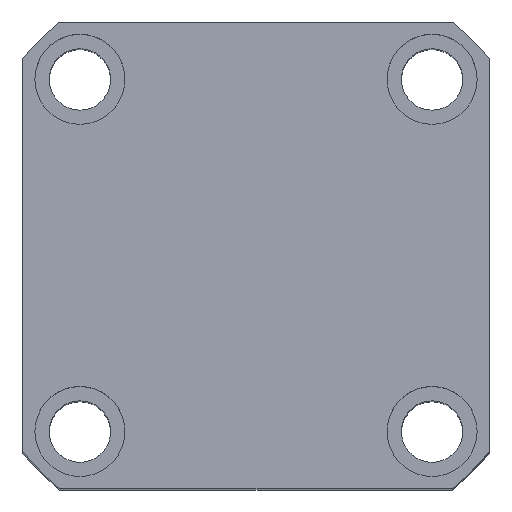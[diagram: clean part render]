
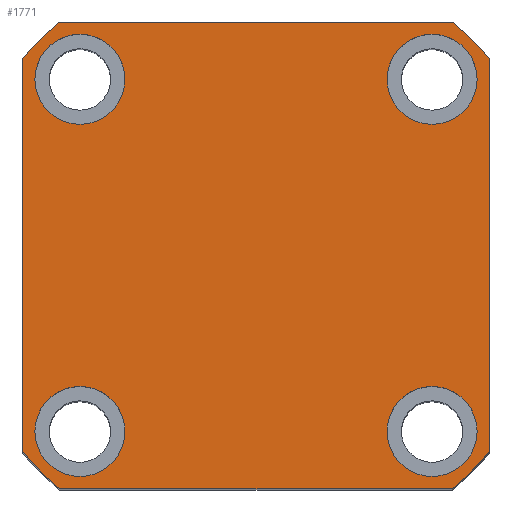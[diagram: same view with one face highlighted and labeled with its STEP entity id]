
A CAD part, top view. The second image highlights one B-rep face of the part: STEP entity #1771.
In plain terms, the highlighted planar face has unit normal (0, 0, 1) as drawn and (0, 0, -1) by its records, which use the part's own axes.
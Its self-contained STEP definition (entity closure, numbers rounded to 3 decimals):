
#72 = FACE_OUTER_BOUND ( 'NONE', #9642, .T. ) ;
#75 = CARTESIAN_POINT ( 'NONE',  ( 43., 43., 0. ) ) ;
#129 = CARTESIAN_POINT ( 'NONE',  ( 57., 47.971, 0. ) ) ;
#319 = AXIS2_PLACEMENT_3D ( 'NONE', #12295, #5258, #13489 ) ;
#427 = LINE ( 'NONE', #12897, #6683 ) ;
#481 = VERTEX_POINT ( 'NONE', #3427 ) ;
#496 = VERTEX_POINT ( 'NONE', #15057 ) ;
#617 = VECTOR ( 'NONE', #14478, 1000. ) ;
#765 = VERTEX_POINT ( 'NONE', #6345 ) ;
#766 = EDGE_CURVE ( 'NONE', #11324, #9706, #14275, .T. ) ;
#828 = ORIENTED_EDGE ( 'NONE', *, *, #3752, .F. ) ;
#890 = VERTEX_POINT ( 'NONE', #2708 ) ;
#964 = CIRCLE ( 'NONE', #7222, 11. ) ;
#1040 = CARTESIAN_POINT ( 'NONE',  ( 54., -43., 0. ) ) ;
#1085 = EDGE_CURVE ( 'NONE', #9706, #11324, #6901, .T. ) ;
#1276 = DIRECTION ( 'NONE',  ( -1., 0., 0. ) ) ;
#1444 = ORIENTED_EDGE ( 'NONE', *, *, #14208, .F. ) ;
#1546 = CARTESIAN_POINT ( 'NONE',  ( 47.971, -57., 0. ) ) ;
#1571 = ORIENTED_EDGE ( 'NONE', *, *, #14124, .F. ) ;
#1771 = ADVANCED_FACE ( 'NONE', ( #3227, #10942, #12594, #6344, #72 ), #12002, .F. ) ;
#2548 = CARTESIAN_POINT ( 'NONE',  ( 0., 0., 0. ) ) ;
#2671 = CARTESIAN_POINT ( 'NONE',  ( -54., -43., 0. ) ) ;
#2708 = CARTESIAN_POINT ( 'NONE',  ( -47.971, -57., 0. ) ) ;
#2721 = CARTESIAN_POINT ( 'NONE',  ( -32., -43., 0. ) ) ;
#2753 = EDGE_CURVE ( 'NONE', #8228, #12827, #4662, .T. ) ;
#2794 = VECTOR ( 'NONE', #11642, 1000. ) ;
#3002 = AXIS2_PLACEMENT_3D ( 'NONE', #4343, #14276, #15117 ) ;
#3047 = EDGE_LOOP ( 'NONE', ( #4388, #9159 ) ) ;
#3107 = AXIS2_PLACEMENT_3D ( 'NONE', #6019, #14263, #7193 ) ;
#3177 = DIRECTION ( 'NONE',  ( 0., 0., -1. ) ) ;
#3227 = FACE_BOUND ( 'NONE', #13929, .T. ) ;
#3295 = VERTEX_POINT ( 'NONE', #10910 ) ;
#3343 = DIRECTION ( 'NONE',  ( 0., 0., -1. ) ) ;
#3427 = CARTESIAN_POINT ( 'NONE',  ( 54., 43., 0. ) ) ;
#3699 = CARTESIAN_POINT ( 'NONE',  ( -57., 47.971, 0. ) ) ;
#3726 = DIRECTION ( 'NONE',  ( 1., 0., 0. ) ) ;
#3745 = LINE ( 'NONE', #3822, #617 ) ;
#3752 = EDGE_CURVE ( 'NONE', #890, #6746, #6649, .T. ) ;
#3822 = CARTESIAN_POINT ( 'NONE',  ( -57., 57., 0. ) ) ;
#3913 = CIRCLE ( 'NONE', #10967, 11. ) ;
#3972 = ORIENTED_EDGE ( 'NONE', *, *, #10853, .F. ) ;
#4086 = CARTESIAN_POINT ( 'NONE',  ( -57., -57., 0. ) ) ;
#4161 = EDGE_LOOP ( 'NONE', ( #14688, #6773 ) ) ;
#4193 = CARTESIAN_POINT ( 'NONE',  ( 57., 57., 0. ) ) ;
#4343 = CARTESIAN_POINT ( 'NONE',  ( 43., -43., 0. ) ) ;
#4388 = ORIENTED_EDGE ( 'NONE', *, *, #5975, .F. ) ;
#4662 = CIRCLE ( 'NONE', #14487, 74.5 ) ;
#4964 = CARTESIAN_POINT ( 'NONE',  ( 43., 43., 0. ) ) ;
#4974 = CIRCLE ( 'NONE', #319, 11. ) ;
#5101 = VERTEX_POINT ( 'NONE', #9081 ) ;
#5258 = DIRECTION ( 'NONE',  ( 0., 0., -1. ) ) ;
#5651 = CARTESIAN_POINT ( 'NONE',  ( 0., 0., 0. ) ) ;
#5744 = EDGE_CURVE ( 'NONE', #6746, #9649, #6620, .T. ) ;
#5813 = EDGE_CURVE ( 'NONE', #481, #496, #9354, .T. ) ;
#5867 = DIRECTION ( 'NONE',  ( -1., 0., 0. ) ) ;
#5975 = EDGE_CURVE ( 'NONE', #496, #481, #8253, .T. ) ;
#6019 = CARTESIAN_POINT ( 'NONE',  ( 0., 0., 0. ) ) ;
#6062 = VERTEX_POINT ( 'NONE', #2671 ) ;
#6157 = DIRECTION ( 'NONE',  ( -1., 0., 0. ) ) ;
#6160 = VERTEX_POINT ( 'NONE', #2721 ) ;
#6340 = ORIENTED_EDGE ( 'NONE', *, *, #5744, .F. ) ;
#6344 = FACE_BOUND ( 'NONE', #13960, .T. ) ;
#6345 = CARTESIAN_POINT ( 'NONE',  ( -54., 43., 0. ) ) ;
#6620 = CIRCLE ( 'NONE', #11180, 74.5 ) ;
#6648 = CARTESIAN_POINT ( 'NONE',  ( 57., -47.971, 0. ) ) ;
#6649 = LINE ( 'NONE', #4086, #2794 ) ;
#6683 = VECTOR ( 'NONE', #5867, 1000. ) ;
#6725 = AXIS2_PLACEMENT_3D ( 'NONE', #6827, #15078, #8000 ) ;
#6746 = VERTEX_POINT ( 'NONE', #1546 ) ;
#6773 = ORIENTED_EDGE ( 'NONE', *, *, #1085, .F. ) ;
#6827 = CARTESIAN_POINT ( 'NONE',  ( -43., 43., 0. ) ) ;
#6838 = DIRECTION ( 'NONE',  ( 1., 0., 0. ) ) ;
#6901 = CIRCLE ( 'NONE', #9286, 11. ) ;
#7027 = CARTESIAN_POINT ( 'NONE',  ( -32., 43., 0. ) ) ;
#7123 = AXIS2_PLACEMENT_3D ( 'NONE', #8299, #13084, #13132 ) ;
#7193 = DIRECTION ( 'NONE',  ( 1., 0., 0. ) ) ;
#7222 = AXIS2_PLACEMENT_3D ( 'NONE', #10382, #3343, #11564 ) ;
#7398 = VECTOR ( 'NONE', #11222, 1000. ) ;
#7676 = VERTEX_POINT ( 'NONE', #3699 ) ;
#7828 = ORIENTED_EDGE ( 'NONE', *, *, #9797, .F. ) ;
#8000 = DIRECTION ( 'NONE',  ( -1., 0., 0. ) ) ;
#8176 = CARTESIAN_POINT ( 'NONE',  ( 0., 0., 0. ) ) ;
#8228 = VERTEX_POINT ( 'NONE', #129 ) ;
#8253 = CIRCLE ( 'NONE', #14361, 11. ) ;
#8277 = DIRECTION ( 'NONE',  ( 0., 0., 1. ) ) ;
#8299 = CARTESIAN_POINT ( 'NONE',  ( 0., 0., 0. ) ) ;
#8300 = DIRECTION ( 'NONE',  ( 0., 0., -1. ) ) ;
#8301 = DIRECTION ( 'NONE',  ( 1., 0., 0. ) ) ;
#8465 = CIRCLE ( 'NONE', #14829, 74.5 ) ;
#8844 = CIRCLE ( 'NONE', #6725, 11. ) ;
#8932 = CARTESIAN_POINT ( 'NONE',  ( 32., -43., 0. ) ) ;
#8986 = ORIENTED_EDGE ( 'NONE', *, *, #11144, .F. ) ;
#9081 = CARTESIAN_POINT ( 'NONE',  ( -47.971, 57., 0. ) ) ;
#9159 = ORIENTED_EDGE ( 'NONE', *, *, #5813, .F. ) ;
#9245 = EDGE_CURVE ( 'NONE', #7676, #3295, #3745, .T. ) ;
#9286 = AXIS2_PLACEMENT_3D ( 'NONE', #13656, #13814, #13761 ) ;
#9354 = CIRCLE ( 'NONE', #12751, 11. ) ;
#9642 = EDGE_LOOP ( 'NONE', ( #14531, #8986, #6340, #828, #1571, #11306, #3972, #7828 ) ) ;
#9649 = VERTEX_POINT ( 'NONE', #6648 ) ;
#9706 = VERTEX_POINT ( 'NONE', #1040 ) ;
#9797 = EDGE_CURVE ( 'NONE', #12827, #5101, #427, .T. ) ;
#9895 = ORIENTED_EDGE ( 'NONE', *, *, #11197, .F. ) ;
#10203 = CARTESIAN_POINT ( 'NONE',  ( -43., 43., 0. ) ) ;
#10382 = CARTESIAN_POINT ( 'NONE',  ( -43., -43., 0. ) ) ;
#10521 = LINE ( 'NONE', #4193, #7398 ) ;
#10628 = ORIENTED_EDGE ( 'NONE', *, *, #12698, .F. ) ;
#10756 = DIRECTION ( 'NONE',  ( 0., 0., 1. ) ) ;
#10853 = EDGE_CURVE ( 'NONE', #5101, #7676, #14413, .T. ) ;
#10910 = CARTESIAN_POINT ( 'NONE',  ( -57., -47.971, 0. ) ) ;
#10942 = FACE_BOUND ( 'NONE', #4161, .T. ) ;
#10967 = AXIS2_PLACEMENT_3D ( 'NONE', #10203, #3177, #11385 ) ;
#11144 = EDGE_CURVE ( 'NONE', #9649, #8228, #10521, .T. ) ;
#11180 = AXIS2_PLACEMENT_3D ( 'NONE', #5651, #13897, #6838 ) ;
#11197 = EDGE_CURVE ( 'NONE', #765, #12431, #3913, .T. ) ;
#11222 = DIRECTION ( 'NONE',  ( 0., 1., 0. ) ) ;
#11306 = ORIENTED_EDGE ( 'NONE', *, *, #9245, .F. ) ;
#11324 = VERTEX_POINT ( 'NONE', #8932 ) ;
#11385 = DIRECTION ( 'NONE',  ( -1., 0., 0. ) ) ;
#11470 = CARTESIAN_POINT ( 'NONE',  ( 47.971, 57., 0. ) ) ;
#11564 = DIRECTION ( 'NONE',  ( -1., 0., 0. ) ) ;
#11642 = DIRECTION ( 'NONE',  ( 1., 0., 0. ) ) ;
#12002 = PLANE ( 'NONE',  #7123 ) ;
#12233 = EDGE_CURVE ( 'NONE', #6160, #6062, #964, .T. ) ;
#12295 = CARTESIAN_POINT ( 'NONE',  ( -43., -43., 0. ) ) ;
#12431 = VERTEX_POINT ( 'NONE', #7027 ) ;
#12594 = FACE_BOUND ( 'NONE', #3047, .T. ) ;
#12698 = EDGE_CURVE ( 'NONE', #12431, #765, #8844, .T. ) ;
#12751 = AXIS2_PLACEMENT_3D ( 'NONE', #75, #8300, #1276 ) ;
#12827 = VERTEX_POINT ( 'NONE', #11470 ) ;
#12897 = CARTESIAN_POINT ( 'NONE',  ( -57., 57., 0. ) ) ;
#13084 = DIRECTION ( 'NONE',  ( 0., 0., 1. ) ) ;
#13132 = DIRECTION ( 'NONE',  ( 1., 0., 0. ) ) ;
#13192 = DIRECTION ( 'NONE',  ( 0., 0., -1. ) ) ;
#13489 = DIRECTION ( 'NONE',  ( -1., 0., 0. ) ) ;
#13656 = CARTESIAN_POINT ( 'NONE',  ( 43., -43., 0. ) ) ;
#13761 = DIRECTION ( 'NONE',  ( -1., 0., 0. ) ) ;
#13814 = DIRECTION ( 'NONE',  ( 0., 0., -1. ) ) ;
#13897 = DIRECTION ( 'NONE',  ( 0., 0., 1. ) ) ;
#13929 = EDGE_LOOP ( 'NONE', ( #1444, #14315 ) ) ;
#13960 = EDGE_LOOP ( 'NONE', ( #9895, #10628 ) ) ;
#14124 = EDGE_CURVE ( 'NONE', #3295, #890, #8465, .T. ) ;
#14208 = EDGE_CURVE ( 'NONE', #6062, #6160, #4974, .T. ) ;
#14263 = DIRECTION ( 'NONE',  ( 0., 0., 1. ) ) ;
#14275 = CIRCLE ( 'NONE', #3002, 11. ) ;
#14276 = DIRECTION ( 'NONE',  ( 0., 0., -1. ) ) ;
#14315 = ORIENTED_EDGE ( 'NONE', *, *, #12233, .F. ) ;
#14361 = AXIS2_PLACEMENT_3D ( 'NONE', #4964, #13192, #6157 ) ;
#14413 = CIRCLE ( 'NONE', #3107, 74.5 ) ;
#14478 = DIRECTION ( 'NONE',  ( 0., -1., 0. ) ) ;
#14487 = AXIS2_PLACEMENT_3D ( 'NONE', #8176, #8277, #8301 ) ;
#14531 = ORIENTED_EDGE ( 'NONE', *, *, #2753, .F. ) ;
#14688 = ORIENTED_EDGE ( 'NONE', *, *, #766, .F. ) ;
#14829 = AXIS2_PLACEMENT_3D ( 'NONE', #2548, #10756, #3726 ) ;
#15057 = CARTESIAN_POINT ( 'NONE',  ( 32., 43., 0. ) ) ;
#15078 = DIRECTION ( 'NONE',  ( 0., 0., -1. ) ) ;
#15117 = DIRECTION ( 'NONE',  ( -1., 0., 0. ) ) ;
